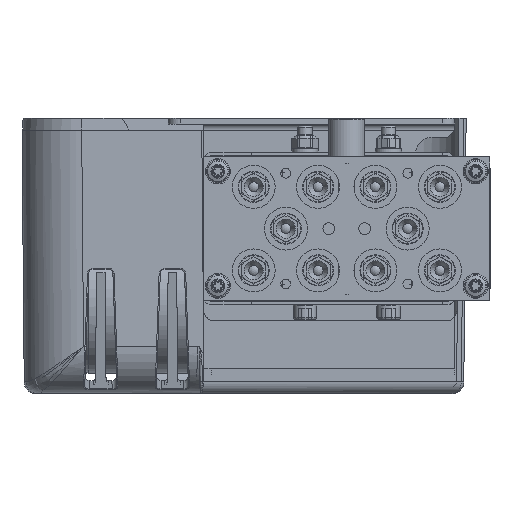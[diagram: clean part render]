
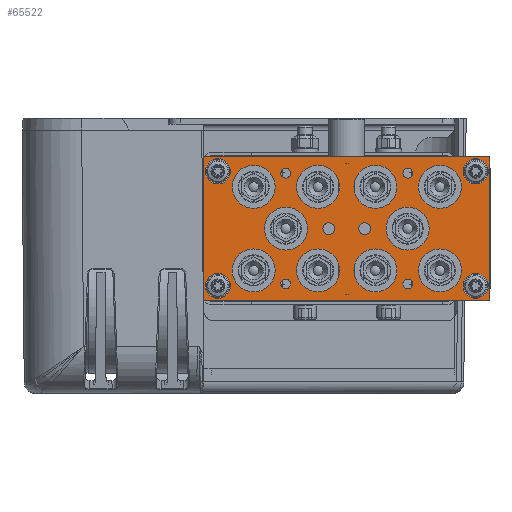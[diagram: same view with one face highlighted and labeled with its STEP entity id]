
A CAD part, left-side view. The second image highlights one B-rep face of the part: STEP entity #65522.
In plain terms, the highlighted planar face has unit normal (-1, 0, 0) as drawn and (0, 0, 1) by its records, which use the part's own axes.
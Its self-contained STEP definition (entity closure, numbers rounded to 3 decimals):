
#5924=LINE('',#113024,#8637);
#5928=LINE('',#113035,#8641);
#5932=LINE('',#113180,#8645);
#5933=LINE('',#113181,#8646);
#8637=VECTOR('',#76497,1000.);
#8641=VECTOR('',#76505,1000.);
#8645=VECTOR('',#76665,1000.);
#8646=VECTOR('',#76666,1000.);
#10751=PLANE('',#69455);
#16178=ORIENTED_EDGE('',*,*,#29804,.F.);
#16179=ORIENTED_EDGE('',*,*,#29805,.F.);
#16180=ORIENTED_EDGE('',*,*,#29806,.F.);
#16181=ORIENTED_EDGE('',*,*,#29807,.F.);
#16182=ORIENTED_EDGE('',*,*,#29808,.F.);
#16183=ORIENTED_EDGE('',*,*,#29809,.F.);
#16184=ORIENTED_EDGE('',*,*,#29810,.T.);
#16185=ORIENTED_EDGE('',*,*,#29811,.T.);
#16186=ORIENTED_EDGE('',*,*,#29812,.T.);
#16187=ORIENTED_EDGE('',*,*,#29813,.T.);
#16188=ORIENTED_EDGE('',*,*,#29814,.T.);
#16189=ORIENTED_EDGE('',*,*,#29815,.T.);
#16190=ORIENTED_EDGE('',*,*,#29816,.T.);
#16191=ORIENTED_EDGE('',*,*,#29746,.T.);
#16192=ORIENTED_EDGE('',*,*,#29817,.T.);
#16193=ORIENTED_EDGE('',*,*,#29751,.T.);
#16194=ORIENTED_EDGE('',*,*,#29818,.T.);
#16195=ORIENTED_EDGE('',*,*,#29819,.T.);
#16196=ORIENTED_EDGE('',*,*,#29820,.T.);
#16197=ORIENTED_EDGE('',*,*,#29821,.T.);
#16198=ORIENTED_EDGE('',*,*,#29822,.T.);
#16199=ORIENTED_EDGE('',*,*,#29823,.T.);
#16200=ORIENTED_EDGE('',*,*,#29824,.T.);
#16201=ORIENTED_EDGE('',*,*,#29825,.T.);
#29746=EDGE_CURVE('',#36844,#36843,#5924,.T.);
#29751=EDGE_CURVE('',#36849,#36848,#5928,.T.);
#29804=EDGE_CURVE('',#36899,#36899,#41344,.T.);
#29805=EDGE_CURVE('',#36900,#36900,#41345,.T.);
#29806=EDGE_CURVE('',#36901,#36901,#41346,.T.);
#29807=EDGE_CURVE('',#36902,#36902,#41347,.T.);
#29808=EDGE_CURVE('',#36903,#36903,#41348,.T.);
#29809=EDGE_CURVE('',#36904,#36904,#41349,.T.);
#29810=EDGE_CURVE('',#36905,#36905,#41350,.T.);
#29811=EDGE_CURVE('',#36906,#36906,#41351,.T.);
#29812=EDGE_CURVE('',#36907,#36907,#41352,.T.);
#29813=EDGE_CURVE('',#36908,#36908,#41353,.T.);
#29814=EDGE_CURVE('',#36909,#36909,#41354,.T.);
#29815=EDGE_CURVE('',#36910,#36910,#41355,.T.);
#29816=EDGE_CURVE('',#36911,#36911,#41356,.T.);
#29817=EDGE_CURVE('',#36843,#36849,#5932,.T.);
#29818=EDGE_CURVE('',#36848,#36844,#5933,.T.);
#29819=EDGE_CURVE('',#36912,#36912,#41357,.T.);
#29820=EDGE_CURVE('',#36913,#36913,#41358,.T.);
#29821=EDGE_CURVE('',#36914,#36914,#41359,.T.);
#29822=EDGE_CURVE('',#36915,#36915,#41360,.T.);
#29823=EDGE_CURVE('',#36916,#36916,#41361,.T.);
#29824=EDGE_CURVE('',#36917,#36917,#41362,.T.);
#29825=EDGE_CURVE('',#36918,#36918,#41363,.T.);
#36843=VERTEX_POINT('',#113023);
#36844=VERTEX_POINT('',#113025);
#36848=VERTEX_POINT('',#113034);
#36849=VERTEX_POINT('',#113036);
#36899=VERTEX_POINT('',#113155);
#36900=VERTEX_POINT('',#113157);
#36901=VERTEX_POINT('',#113159);
#36902=VERTEX_POINT('',#113161);
#36903=VERTEX_POINT('',#113163);
#36904=VERTEX_POINT('',#113165);
#36905=VERTEX_POINT('',#113167);
#36906=VERTEX_POINT('',#113169);
#36907=VERTEX_POINT('',#113171);
#36908=VERTEX_POINT('',#113173);
#36909=VERTEX_POINT('',#113175);
#36910=VERTEX_POINT('',#113177);
#36911=VERTEX_POINT('',#113179);
#36912=VERTEX_POINT('',#113183);
#36913=VERTEX_POINT('',#113185);
#36914=VERTEX_POINT('',#113187);
#36915=VERTEX_POINT('',#113189);
#36916=VERTEX_POINT('',#113191);
#36917=VERTEX_POINT('',#113193);
#36918=VERTEX_POINT('',#113195);
#41344=CIRCLE('',#69456,2.067);
#41345=CIRCLE('',#69457,2.067);
#41346=CIRCLE('',#69458,2.067);
#41347=CIRCLE('',#69459,2.067);
#41348=CIRCLE('',#69460,2.459);
#41349=CIRCLE('',#69461,2.459);
#41350=CIRCLE('',#69462,9.);
#41351=CIRCLE('',#69463,9.);
#41352=CIRCLE('',#69464,9.);
#41353=CIRCLE('',#69465,9.);
#41354=CIRCLE('',#69466,9.);
#41355=CIRCLE('',#69467,5.25);
#41356=CIRCLE('',#69468,5.25);
#41357=CIRCLE('',#69469,5.25);
#41358=CIRCLE('',#69470,9.);
#41359=CIRCLE('',#69471,9.);
#41360=CIRCLE('',#69472,9.);
#41361=CIRCLE('',#69473,9.);
#41362=CIRCLE('',#69474,9.);
#41363=CIRCLE('',#69475,5.25);
#43878=EDGE_LOOP('',(#16178));
#43879=EDGE_LOOP('',(#16179));
#43880=EDGE_LOOP('',(#16180));
#43881=EDGE_LOOP('',(#16181));
#43882=EDGE_LOOP('',(#16182));
#43883=EDGE_LOOP('',(#16183));
#43884=EDGE_LOOP('',(#16184));
#43885=EDGE_LOOP('',(#16185));
#43886=EDGE_LOOP('',(#16186));
#43887=EDGE_LOOP('',(#16187));
#43888=EDGE_LOOP('',(#16188));
#43889=EDGE_LOOP('',(#16189));
#43890=EDGE_LOOP('',(#16190));
#43891=EDGE_LOOP('',(#16191,#16192,#16193,#16194));
#43892=EDGE_LOOP('',(#16195));
#43893=EDGE_LOOP('',(#16196));
#43894=EDGE_LOOP('',(#16197));
#43895=EDGE_LOOP('',(#16198));
#43896=EDGE_LOOP('',(#16199));
#43897=EDGE_LOOP('',(#16200));
#43898=EDGE_LOOP('',(#16201));
#47874=FACE_BOUND('',#43878,.T.);
#47875=FACE_BOUND('',#43879,.T.);
#47876=FACE_BOUND('',#43880,.T.);
#47877=FACE_BOUND('',#43881,.T.);
#47878=FACE_BOUND('',#43882,.T.);
#47879=FACE_BOUND('',#43883,.T.);
#47880=FACE_BOUND('',#43884,.T.);
#47881=FACE_BOUND('',#43885,.T.);
#47882=FACE_BOUND('',#43886,.T.);
#47883=FACE_BOUND('',#43887,.T.);
#47884=FACE_BOUND('',#43888,.T.);
#47885=FACE_BOUND('',#43889,.T.);
#47886=FACE_BOUND('',#43890,.T.);
#47887=FACE_BOUND('',#43891,.T.);
#47888=FACE_BOUND('',#43892,.T.);
#47889=FACE_BOUND('',#43893,.T.);
#47890=FACE_BOUND('',#43894,.T.);
#47891=FACE_BOUND('',#43895,.T.);
#47892=FACE_BOUND('',#43896,.T.);
#47893=FACE_BOUND('',#43897,.T.);
#47894=FACE_BOUND('',#43898,.T.);
#65522=ADVANCED_FACE('',(#47874,#47875,#47876,#47877,#47878,#47879,#47880,
#47881,#47882,#47883,#47884,#47885,#47886,#47887,#47888,#47889,#47890,#47891,
#47892,#47893,#47894),#10751,.T.);
#69455=AXIS2_PLACEMENT_3D('',#113153,#76637,#76638);
#69456=AXIS2_PLACEMENT_3D('',#113154,#76639,#76640);
#69457=AXIS2_PLACEMENT_3D('',#113156,#76641,#76642);
#69458=AXIS2_PLACEMENT_3D('',#113158,#76643,#76644);
#69459=AXIS2_PLACEMENT_3D('',#113160,#76645,#76646);
#69460=AXIS2_PLACEMENT_3D('',#113162,#76647,#76648);
#69461=AXIS2_PLACEMENT_3D('',#113164,#76649,#76650);
#69462=AXIS2_PLACEMENT_3D('',#113166,#76651,#76652);
#69463=AXIS2_PLACEMENT_3D('',#113168,#76653,#76654);
#69464=AXIS2_PLACEMENT_3D('',#113170,#76655,#76656);
#69465=AXIS2_PLACEMENT_3D('',#113172,#76657,#76658);
#69466=AXIS2_PLACEMENT_3D('',#113174,#76659,#76660);
#69467=AXIS2_PLACEMENT_3D('',#113176,#76661,#76662);
#69468=AXIS2_PLACEMENT_3D('',#113178,#76663,#76664);
#69469=AXIS2_PLACEMENT_3D('',#113182,#76667,#76668);
#69470=AXIS2_PLACEMENT_3D('',#113184,#76669,#76670);
#69471=AXIS2_PLACEMENT_3D('',#113186,#76671,#76672);
#69472=AXIS2_PLACEMENT_3D('',#113188,#76673,#76674);
#69473=AXIS2_PLACEMENT_3D('',#113190,#76675,#76676);
#69474=AXIS2_PLACEMENT_3D('',#113192,#76677,#76678);
#69475=AXIS2_PLACEMENT_3D('',#113194,#76679,#76680);
#76497=DIRECTION('',(-1.,0.,0.));
#76505=DIRECTION('',(1.,0.,0.));
#76637=DIRECTION('',(0.,0.,1.));
#76638=DIRECTION('',(1.,0.,0.));
#76639=DIRECTION('',(0.,0.,1.));
#76640=DIRECTION('',(1.,0.,0.));
#76641=DIRECTION('',(0.,0.,1.));
#76642=DIRECTION('',(1.,0.,0.));
#76643=DIRECTION('',(0.,0.,1.));
#76644=DIRECTION('',(1.,0.,0.));
#76645=DIRECTION('',(0.,0.,1.));
#76646=DIRECTION('',(1.,0.,0.));
#76647=DIRECTION('',(0.,0.,1.));
#76648=DIRECTION('',(1.,0.,0.));
#76649=DIRECTION('',(0.,0.,1.));
#76650=DIRECTION('',(1.,0.,0.));
#76651=DIRECTION('',(0.,0.,-1.));
#76652=DIRECTION('',(1.,0.,0.));
#76653=DIRECTION('',(0.,0.,-1.));
#76654=DIRECTION('',(1.,0.,0.));
#76655=DIRECTION('',(0.,0.,-1.));
#76656=DIRECTION('',(1.,0.,0.));
#76657=DIRECTION('',(0.,0.,-1.));
#76658=DIRECTION('',(1.,0.,0.));
#76659=DIRECTION('',(0.,0.,-1.));
#76660=DIRECTION('',(1.,0.,0.));
#76661=DIRECTION('',(0.,0.,-1.));
#76662=DIRECTION('',(1.,0.,0.));
#76663=DIRECTION('',(0.,0.,-1.));
#76664=DIRECTION('',(1.,0.,0.));
#76665=DIRECTION('',(0.,-1.,0.));
#76666=DIRECTION('',(0.,1.,0.));
#76667=DIRECTION('',(0.,0.,-1.));
#76668=DIRECTION('',(1.,0.,0.));
#76669=DIRECTION('',(0.,0.,-1.));
#76670=DIRECTION('',(1.,0.,0.));
#76671=DIRECTION('',(0.,0.,-1.));
#76672=DIRECTION('',(1.,0.,0.));
#76673=DIRECTION('',(0.,0.,-1.));
#76674=DIRECTION('',(1.,0.,0.));
#76675=DIRECTION('',(0.,0.,-1.));
#76676=DIRECTION('',(1.,0.,0.));
#76677=DIRECTION('',(0.,0.,-1.));
#76678=DIRECTION('',(1.,0.,0.));
#76679=DIRECTION('',(0.,0.,-1.));
#76680=DIRECTION('',(1.,0.,0.));
#113023=CARTESIAN_POINT('',(-60.,30.,15.));
#113024=CARTESIAN_POINT('',(60.,30.,15.));
#113025=CARTESIAN_POINT('',(60.,30.,15.));
#113034=CARTESIAN_POINT('',(60.,-30.,15.));
#113035=CARTESIAN_POINT('',(-60.,-30.,15.));
#113036=CARTESIAN_POINT('',(-60.,-30.,15.));
#113153=CARTESIAN_POINT('',(-60.,30.,15.));
#113154=CARTESIAN_POINT('',(25.6,23.2,15.));
#113155=CARTESIAN_POINT('',(27.667,23.2,15.));
#113156=CARTESIAN_POINT('',(-25.6,23.2,15.));
#113157=CARTESIAN_POINT('',(-23.533,23.2,15.));
#113158=CARTESIAN_POINT('',(-25.6,-23.2,15.));
#113159=CARTESIAN_POINT('',(-23.533,-23.2,15.));
#113160=CARTESIAN_POINT('',(25.6,-23.2,15.));
#113161=CARTESIAN_POINT('',(27.667,-23.2,15.));
#113162=CARTESIAN_POINT('',(7.5,0.,15.));
#113163=CARTESIAN_POINT('',(9.959,0.,15.));
#113164=CARTESIAN_POINT('',(-7.5,0.,15.));
#113165=CARTESIAN_POINT('',(-5.041,0.,15.));
#113166=CARTESIAN_POINT('',(25.5,0.,15.));
#113167=CARTESIAN_POINT('',(34.5,0.,15.));
#113168=CARTESIAN_POINT('',(39.,17.5,15.));
#113169=CARTESIAN_POINT('',(48.,17.5,15.));
#113170=CARTESIAN_POINT('',(-39.,-17.5,15.));
#113171=CARTESIAN_POINT('',(-30.,-17.5,15.));
#113172=CARTESIAN_POINT('',(-12.,-17.5,15.));
#113173=CARTESIAN_POINT('',(-3.,-17.5,15.));
#113174=CARTESIAN_POINT('',(12.,17.5,15.));
#113175=CARTESIAN_POINT('',(21.,17.5,15.));
#113176=CARTESIAN_POINT('',(-54.,-24.,15.));
#113177=CARTESIAN_POINT('',(-48.75,-24.,15.));
#113178=CARTESIAN_POINT('',(54.,24.,15.));
#113179=CARTESIAN_POINT('',(59.25,24.,15.));
#113180=CARTESIAN_POINT('',(-60.,30.,15.));
#113181=CARTESIAN_POINT('',(60.,-30.,15.));
#113182=CARTESIAN_POINT('',(54.,-24.,15.));
#113183=CARTESIAN_POINT('',(59.25,-24.,15.));
#113184=CARTESIAN_POINT('',(-12.,17.5,15.));
#113185=CARTESIAN_POINT('',(-3.,17.5,15.));
#113186=CARTESIAN_POINT('',(12.,-17.5,15.));
#113187=CARTESIAN_POINT('',(21.,-17.5,15.));
#113188=CARTESIAN_POINT('',(-39.,17.5,15.));
#113189=CARTESIAN_POINT('',(-30.,17.5,15.));
#113190=CARTESIAN_POINT('',(39.,-17.5,15.));
#113191=CARTESIAN_POINT('',(48.,-17.5,15.));
#113192=CARTESIAN_POINT('',(-25.5,0.,15.));
#113193=CARTESIAN_POINT('',(-16.5,0.,15.));
#113194=CARTESIAN_POINT('',(-54.,24.,15.));
#113195=CARTESIAN_POINT('',(-48.75,24.,15.));
